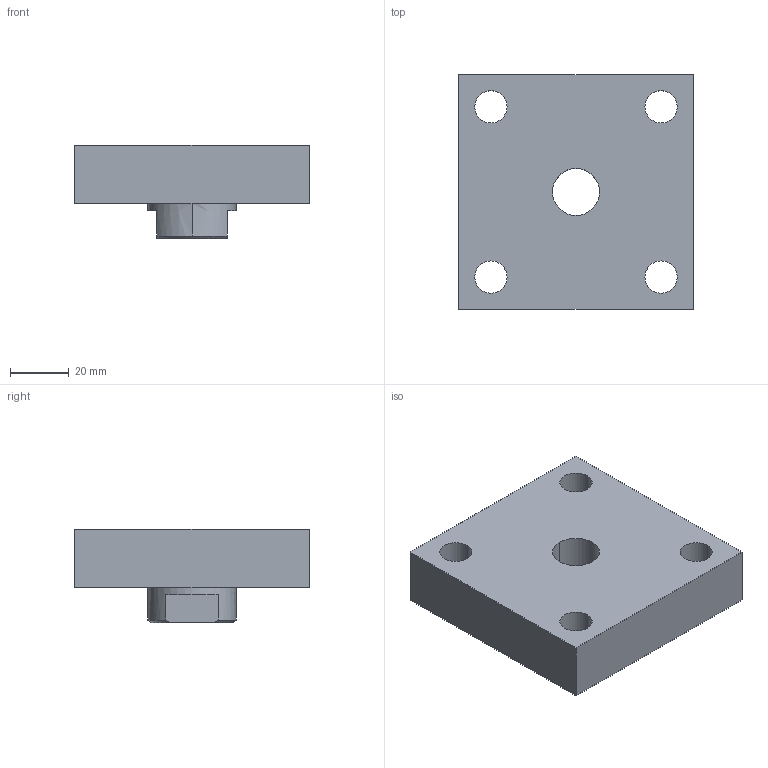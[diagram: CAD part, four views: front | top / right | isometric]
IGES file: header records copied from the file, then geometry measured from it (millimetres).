
Start section:  PTC IGES file: 1827001631\1827001631.iges
Global section: file name: 1827001631\1827001631.iges; native system: Creo Parametric by PTC Inc.; preprocessor: 2020044; author: THD3HC; organization: Unknown; date: 20231016.152142; units: millimetre
Bounding box: 80 x 80 x 32 mm (x, y, z)
Surface area: 24448.5 mm2 (no closed solid volume)
Topology: 0 solids, 0 shells, 37 faces, 180 edges, 180 vertices
Faces by surface type: revolution 22, bspline 15
